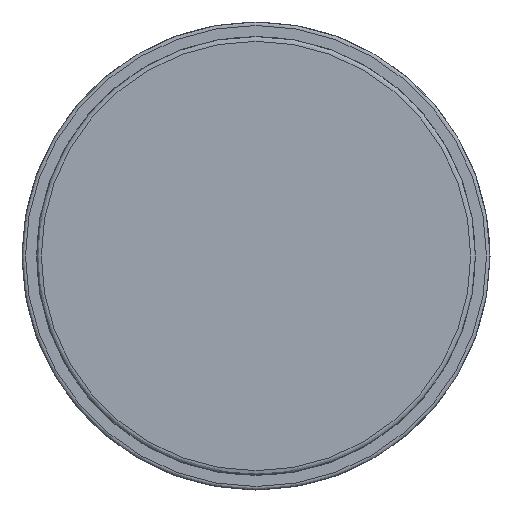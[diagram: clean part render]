
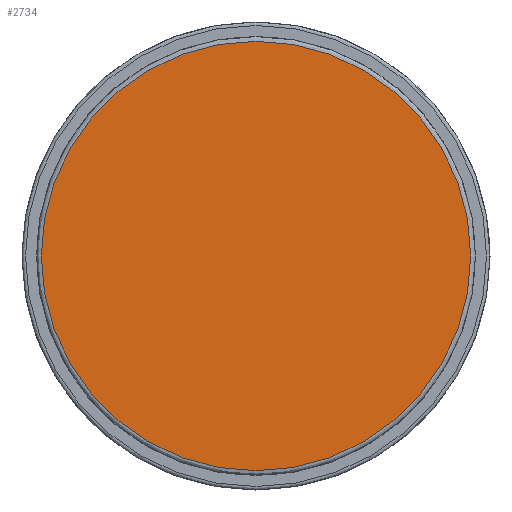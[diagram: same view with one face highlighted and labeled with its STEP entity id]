
A CAD part, front view. The second image highlights one B-rep face of the part: STEP entity #2734.
In plain terms, the highlighted planar face has unit normal (0, -1, 0).
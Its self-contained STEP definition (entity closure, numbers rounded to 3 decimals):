
#2709=CARTESIAN_POINT('',(47.077,96.374,-45.));
#2710=DIRECTION('',(0.0,-1.0,0.0));
#2711=DIRECTION('',(0.0,0.0,1.0));
#2712=AXIS2_PLACEMENT_3D('',#2709,#2710,#2711);
#2713=PLANE('',#2712);
#2714=CARTESIAN_POINT('',(2.077,96.374,36.7));
#2715=VERTEX_POINT('',#2714);
#2716=CARTESIAN_POINT('',(2.077,96.374,-36.7));
#2717=VERTEX_POINT('',#2716);
#2718=CARTESIAN_POINT('',(2.077,96.374,0.0));
#2719=DIRECTION('',(0.0,-1.0,0.0));
#2720=DIRECTION('',(0.0,0.0,1.0));
#2721=AXIS2_PLACEMENT_3D('',#2718,#2719,#2720);
#2722=CIRCLE('',#2721,36.7);
#2723=EDGE_CURVE('',#2715,#2717,#2722,.T.);
#2724=ORIENTED_EDGE('',*,*,#2723,.T.);
#2725=CARTESIAN_POINT('',(2.077,96.374,0.0));
#2726=DIRECTION('',(0.0,-1.0,0.0));
#2727=DIRECTION('',(0.0,0.0,1.0));
#2728=AXIS2_PLACEMENT_3D('',#2725,#2726,#2727);
#2729=CIRCLE('',#2728,36.7);
#2730=EDGE_CURVE('',#2717,#2715,#2729,.T.);
#2731=ORIENTED_EDGE('',*,*,#2730,.T.);
#2732=EDGE_LOOP('',(#2724,#2731));
#2733=FACE_OUTER_BOUND('',#2732,.T.);
#2734=ADVANCED_FACE('',(#2733),#2713,.T.);
